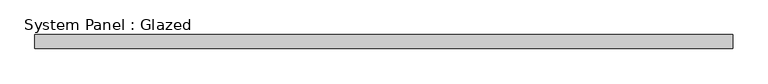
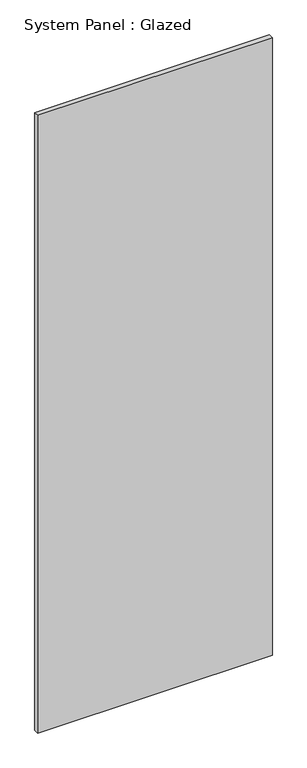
"""IFC4 building model written with IfcOpenShell, lengths in millimetres: plate geometry, System Panel : Glazed."""

import ifcopenshell
import ifcopenshell.guid

model = None  # the IFC model being written
_history = None  # IfcOwnerHistory: only IFC2X3 demands one
_inside = {}  # id of a spatial element -> (the spatial element, [elements in it])
_under = {}  # id of a project, library or spatial element -> (it, [spatial elements below it])
_declared = {}  # id of a project -> (the project, [libraries it declares])
_typed = {}  # id of a type object -> (the type object, [elements of that type])
_made_of = {}  # id of a material, layer set ... -> (it, [elements and type objects made of it])


def new_model(schema):
    """Start an empty IFC model of exactly this schema.

    Asked for "IFC4X3", IfcOpenShell would pick the latest addendum, in which some entities
    have other attributes; the version numbers below select the first issue.
    IFC2X3 requires an IfcOwnerHistory on every rooted entity: one is made here for all.
    """
    global model, _history
    if schema == "IFC4X3":
        model = ifcopenshell.file(schema_version=(4, 3, 0, 0))
    else:
        model = ifcopenshell.file(schema=schema)
    _inside.clear()
    _under.clear()
    _declared.clear()
    _typed.clear()
    _made_of.clear()
    _history = None
    if model.schema == "IFC2X3":
        org = make("IfcOrganization", Name="unknown")
        user = make(
            "IfcPersonAndOrganization",
            ThePerson=make("IfcPerson", FamilyName="unknown"),
            TheOrganization=org,
        )
        app = make(
            "IfcApplication",
            ApplicationDeveloper=org,
            Version="unknown",
            ApplicationFullName="unknown",
            ApplicationIdentifier="unknown",
        )
        _history = make(
            "IfcOwnerHistory",
            OwningUser=user,
            OwningApplication=app,
            ChangeAction="ADDED",
            CreationDate=0,
        )
    return model


def make(cls, **values):
    """One entity of the class cls with the attributes given. An attribute that is None is left unset."""
    return model.create_entity(
        cls, **{name: value for name, value in values.items() if value is not None}
    )


def rooted(cls, **values):
    """An entity with a GlobalId (a new one), such as an element, a storey or a relation."""
    return make(cls, GlobalId=ifcopenshell.guid.new(), OwnerHistory=_history, **values)


def si_unit(unit_type, name, prefix=None):
    """IfcSIUnit, for example si_unit("LENGTHUNIT", "METRE", prefix="MILLI")."""
    return make("IfcSIUnit", UnitType=unit_type, Prefix=prefix, Name=name)


def assignment(units):
    """IfcUnitAssignment: the units of a project."""
    return None if units is None else make("IfcUnitAssignment", Units=units)


def point(xyz):
    """IfcCartesianPoint."""
    return None if xyz is None else make("IfcCartesianPoint", Coordinates=xyz)


def direction(xyz):
    """IfcDirection."""
    return None if xyz is None else make("IfcDirection", DirectionRatios=xyz)


def frame(location, z_axis=None, x_axis=None):
    """IfcAxis2Placement3D, a coordinate frame: its origin and axes. An axis left out is left unset."""
    return make(
        "IfcAxis2Placement3D",
        Location=point(location),
        Axis=direction(z_axis),
        RefDirection=direction(x_axis),
    )


def origin():
    """The frame at (0, 0, 0) with its axes left unset."""
    return frame((0.0, 0.0, 0.0))


def origin_with_axes():
    """The frame at (0, 0, 0) with the z axis (0, 0, 1) and the x axis (1, 0, 0) written out."""
    return frame((0.0, 0.0, 0.0), z_axis=(0.0, 0.0, 1.0), x_axis=(1.0, 0.0, 0.0))


def place(relative_to, where):
    """IfcLocalPlacement: puts the frame where relative to a parent placement (None: the world)."""
    return make(
        "IfcLocalPlacement", PlacementRelTo=relative_to, RelativePlacement=where
    )


def context(
    kind, dimensions, precision=None, world=None, true_north=None, identifier=None
):
    """IfcGeometricRepresentationContext, for example the 3D "Model" context."""
    return make(
        "IfcGeometricRepresentationContext",
        ContextIdentifier=identifier,
        ContextType=kind,
        CoordinateSpaceDimension=dimensions,
        Precision=precision,
        WorldCoordinateSystem=world,
        TrueNorth=true_north,
    )


def project(units=None, contexts=None):
    """IfcProject with its units and contexts."""
    return rooted(
        "IfcProject",
        Name="project",
        RepresentationContexts=contexts,
        UnitsInContext=assignment(units),
    )


def spatial(cls, under=None, at=None, **own):
    """A site, building, storey or space (cls), placed at a placement, below another one or the project."""
    s = rooted(cls, ObjectPlacement=at, **own)
    if under is not None:
        _under.setdefault(under.id(), (under, []))[1].append(s)
    return s


def polyline(points):
    """IfcPolyline through the points."""
    return make("IfcPolyline", Points=[point(p) for p in points])


def outline(outer, holes=None, kind="AREA"):
    """IfcArbitraryClosedProfileDef: a profile drawn as a closed curve; with holes, ...WithVoids."""
    if holes is None:
        return make("IfcArbitraryClosedProfileDef", ProfileType=kind, OuterCurve=outer)
    return make(
        "IfcArbitraryProfileDefWithVoids",
        ProfileType=kind,
        OuterCurve=outer,
        InnerCurves=holes,
    )


def extrude(swept, where, along, depth):
    """IfcExtrudedAreaSolid: the profile swept, set in the frame where, extruded along a direction by depth."""
    return make(
        "IfcExtrudedAreaSolid",
        SweptArea=swept,
        Position=where,
        ExtrudedDirection=direction(along),
        Depth=depth,
    )


def shape(context_of_items, identifier, shape_type, items):
    """IfcShapeRepresentation: the items that make up one representation, for example the "Body"."""
    return make(
        "IfcShapeRepresentation",
        ContextOfItems=context_of_items,
        RepresentationIdentifier=identifier,
        RepresentationType=shape_type,
        Items=items,
    )


def source(mapping_origin, context_of_items, identifier, shape_type, items):
    """IfcRepresentationMap: a shape defined once, which mapped items show again and again."""
    return make(
        "IfcRepresentationMap",
        MappingOrigin=mapping_origin,
        MappedRepresentation=shape(context_of_items, identifier, shape_type, items),
    )


def transform(
    local_origin,
    x_axis=None,
    y_axis=None,
    z_axis=None,
    scale=None,
    scale2=None,
    scale3=None,
    uniform=True,
):
    """IfcCartesianTransformationOperator3D, or its non-uniform kind. x_axis, y_axis, z_axis: its Axis1, 2, 3."""
    if uniform:
        return make(
            "IfcCartesianTransformationOperator3D",
            Axis1=direction(x_axis),
            Axis2=direction(y_axis),
            LocalOrigin=point(local_origin),
            Scale=scale,
            Axis3=direction(z_axis),
        )
    return make(
        "IfcCartesianTransformationOperator3DnonUniform",
        Axis1=direction(x_axis),
        Axis2=direction(y_axis),
        LocalOrigin=point(local_origin),
        Scale=scale,
        Axis3=direction(z_axis),
        Scale2=scale2,
        Scale3=scale3,
    )


def mapped(mapping_source, mapping_target):
    """IfcMappedItem: shows the shape of a source again, moved by a transform."""
    return make(
        "IfcMappedItem", MappingSource=mapping_source, MappingTarget=mapping_target
    )


def made_of(thing, what):
    """Note that an element or type object is made of a material, layer set ...; save() writes the relation."""
    if what is not None:
        _made_of.setdefault(what.id(), (what, []))[1].append(thing)
    return thing


def element(
    cls,
    number,
    at=None,
    inside=None,
    cuts=None,
    type_object=None,
    material=None,
    context=None,
    identifier="Body",
    shape_type=None,
    held_by="IfcProductDefinitionShape",
    body=None,
    shapes=None,
    **own,
):
    """One element of the class cls, such as IfcWall. Its Tag is "e" and its number.

    at: its placement. inside: the storey or other place that contains it. cuts: it is an
    opening in that element (IfcRelVoidsElement). A single representation is given by context,
    identifier, shape_type and body (its items); several are given by shapes. held_by: the class
    of the entity that holds the representations. save() writes the other relations.
    """
    e = rooted(cls, Tag="e%d" % number, ObjectPlacement=at, **own)
    if body is not None:
        shapes = [shape(context, identifier, shape_type, body)]
    if shapes is not None:
        e.Representation = make(held_by, Representations=shapes)
    if inside is not None:
        _inside.setdefault(inside.id(), (inside, []))[1].append(e)
    if cuts is not None:
        rooted(
            "IfcRelVoidsElement", RelatingBuildingElement=cuts, RelatedOpeningElement=e
        )
    if type_object is not None:
        _typed.setdefault(type_object.id(), (type_object, []))[1].append(e)
    return made_of(e, material)


def aggregate(whole, parts):
    """IfcRelAggregates: a whole, such as a stair, and the parts it consists of."""
    return rooted("IfcRelAggregates", RelatingObject=whole, RelatedObjects=parts)


def save(model, path):
    """Write the relations noted so far, then the file.

    IfcRelAggregates (storeys below a building ...), IfcRelContainedInSpatialStructure (elements
    in a storey), IfcRelDefinesByType, IfcRelAssociatesMaterial and IfcRelDeclares: one each for
    every whole, place, type object, material and project.
    """
    for whole, parts in _under.values():
        aggregate(whole, parts)
    for where, things in _inside.values():
        rooted(
            "IfcRelContainedInSpatialStructure",
            RelatedElements=things,
            RelatingStructure=where,
        )
    for kind, things in _typed.values():
        rooted("IfcRelDefinesByType", RelatedObjects=things, RelatingType=kind)
    for what, things in _made_of.values():
        rooted("IfcRelAssociatesMaterial", RelatedObjects=things, RelatingMaterial=what)
    for by, libraries in _declared.values():
        rooted("IfcRelDeclares", RelatingContext=by, RelatedDefinitions=libraries)
    model.write(path)


def system_panel_glazed_0c0ff7ba(model_context):
    return source(origin(), model_context, "Body", "SweptSolid", [
        extrude(outline(polyline([(629.4703702, 24.5), (-629.4703702, 24.5), (-629.4703702, 49.5), (629.4703702, 49.5), (629.4703702, 24.5)])), origin_with_axes(), (0.0, 0.0, 1.0), 3500.0),
    ])


if __name__ == "__main__":
    model = new_model("IFC4")
    model_context = context("Model", 3, world=origin())
    ifc_project = project(units=[si_unit("LENGTHUNIT", "METRE", prefix="MILLI")], contexts=[model_context])
    site = spatial("IfcSite", under=ifc_project)
    building = spatial("IfcBuilding", under=site)
    placement = place(None, origin())
    system_panel_glazed_shape = system_panel_glazed_0c0ff7ba(model_context)
    element("IfcPlate", 1, ObjectType="System Panel : Glazed", at=placement, inside=building, context=model_context, shape_type="MappedRepresentation", body=[
        mapped(system_panel_glazed_shape, transform((0.0, 0.0, 0.0), x_axis=(1.0, 0.0, 0.0), y_axis=(0.0, 1.0, 0.0), z_axis=(0.0, 0.0, 1.0))),
    ])
    save(model, "model.ifc")
